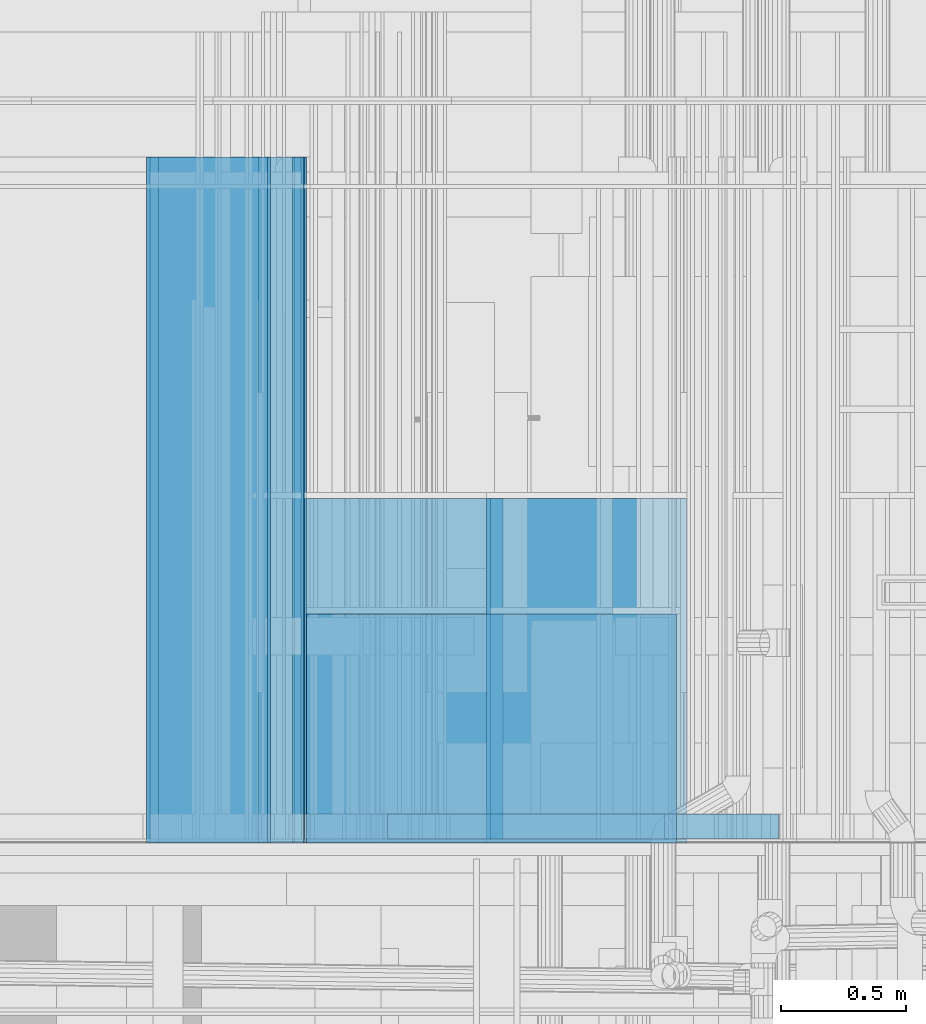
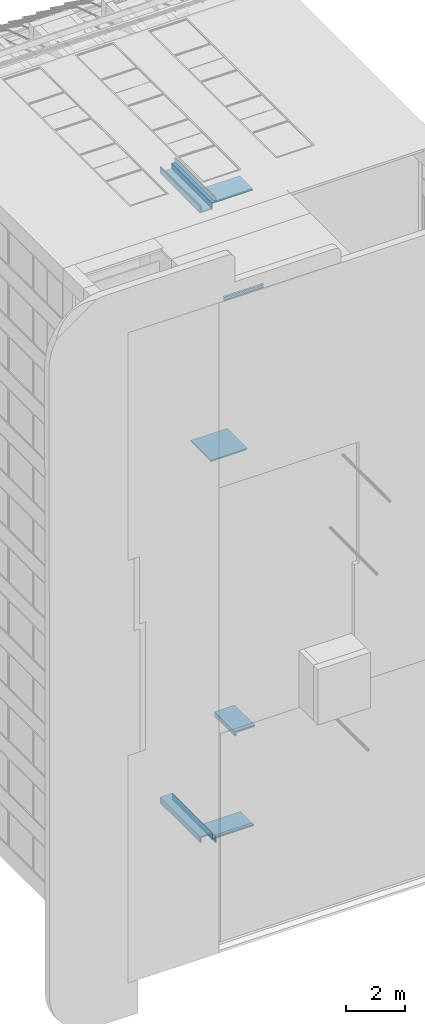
# One storey, part 44 of 583: 34 building element parts, 16 elements without a shape of their own.
"""IFC2X3 building model written with IfcOpenShell, lengths in metres."""

from ifc_helpers import new_model, entity, si_unit, converted_unit, derived_unit, money_unit, direction, frame, frame_2d, origin_with_axes, place, context, subcontext, project, spatial, polyline, rectangle, outline, extrude, material, type_object, element, aggregate, save


model = new_model("IFC2X3")

# Units and contexts
model_context = context("Model", 3, precision=1e-05, world=origin_with_axes(), true_north=direction((0.0, 1.0)))
body_context = subcontext(model_context, "Body", "Model", "MODEL_VIEW", scale=1.0)
ifc_project = project(units=[si_unit("LENGTHUNIT", "METRE"), si_unit("AREAUNIT", "SQUARE_METRE"), si_unit("VOLUMEUNIT", "CUBIC_METRE"), si_unit("ABSORBEDDOSEUNIT", "GRAY"), si_unit("AMOUNTOFSUBSTANCEUNIT", "MOLE"), si_unit("DOSEEQUIVALENTUNIT", "SIEVERT"), si_unit("ELECTRICCAPACITANCEUNIT", "FARAD"), si_unit("ELECTRICCHARGEUNIT", "COULOMB"), si_unit("ELECTRICCONDUCTANCEUNIT", "SIEMENS"), si_unit("ELECTRICCURRENTUNIT", "AMPERE"), si_unit("ELECTRICRESISTANCEUNIT", "OHM"), si_unit("ELECTRICVOLTAGEUNIT", "VOLT"), si_unit("ENERGYUNIT", "JOULE"), si_unit("FORCEUNIT", "NEWTON"), si_unit("FREQUENCYUNIT", "HERTZ"), si_unit("ILLUMINANCEUNIT", "LUX"), si_unit("INDUCTANCEUNIT", "HENRY"), si_unit("LUMINOUSFLUXUNIT", "LUMEN"), si_unit("LUMINOUSINTENSITYUNIT", "CANDELA"), si_unit("MAGNETICFLUXDENSITYUNIT", "TESLA"), si_unit("MAGNETICFLUXUNIT", "WEBER"), si_unit("MASSUNIT", "GRAM"), converted_unit("PLANEANGLEUNIT", "degree", entity("IfcReal", 0.0174532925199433), si_unit("PLANEANGLEUNIT", "RADIAN"), dimensions=[0, 0, 0, 0, 0, 0, 0]), si_unit("POWERUNIT", "WATT"), si_unit("PRESSUREUNIT", "PASCAL"), si_unit("RADIOACTIVITYUNIT", "BECQUEREL"), si_unit("SOLIDANGLEUNIT", "STERADIAN"), si_unit("THERMODYNAMICTEMPERATUREUNIT", "KELVIN"), si_unit("TIMEUNIT", "SECOND"), derived_unit("ACCELERATIONUNIT", [(si_unit("LENGTHUNIT", "METRE"), 1), (si_unit("TIMEUNIT", "SECOND"), -2)]), derived_unit("ANGULARVELOCITYUNIT", [(converted_unit("PLANEANGLEUNIT", "degree", entity("IfcReal", 0.0174532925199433), si_unit("PLANEANGLEUNIT", "RADIAN"), dimensions=[0, 0, 0, 0, 0, 0, 0]), 1), (si_unit("TIMEUNIT", "SECOND"), -1)]), derived_unit("CURVATUREUNIT", [(converted_unit("PLANEANGLEUNIT", "degree", entity("IfcReal", 0.0174532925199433), si_unit("PLANEANGLEUNIT", "RADIAN"), dimensions=[0, 0, 0, 0, 0, 0, 0]), 1), (si_unit("LENGTHUNIT", "METRE"), -1)]), derived_unit("DYNAMICVISCOSITYUNIT", [(si_unit("PRESSUREUNIT", "PASCAL"), 1), (si_unit("TIMEUNIT", "SECOND"), 1)]), derived_unit("HEATFLUXDENSITYUNIT", [(si_unit("POWERUNIT", "WATT"), 1), (si_unit("LENGTHUNIT", "METRE"), -2)]), derived_unit("HEATINGVALUEUNIT", [(si_unit("ENERGYUNIT", "JOULE"), 1), (si_unit("MASSUNIT", "GRAM"), -1)]), derived_unit("INTEGERCOUNTRATEUNIT", [(si_unit("TIMEUNIT", "SECOND"), -1)]), derived_unit("IONCONCENTRATIONUNIT", [(si_unit("MASSUNIT", "GRAM"), 1), (si_unit("VOLUMEUNIT", "CUBIC_METRE"), -1)]), derived_unit("ISOTHERMALMOISTURECAPACITYUNIT", [(si_unit("VOLUMEUNIT", "CUBIC_METRE"), 1), (si_unit("MASSUNIT", "GRAM"), -1)]), derived_unit("KINEMATICVISCOSITYUNIT", [(si_unit("AREAUNIT", "SQUARE_METRE"), 1), (si_unit("TIMEUNIT", "SECOND"), -1)]), derived_unit("LINEARFORCEUNIT", [(si_unit("FORCEUNIT", "NEWTON"), 1), (si_unit("LENGTHUNIT", "METRE"), -1)]), derived_unit("LINEARMOMENTUNIT", [(si_unit("FORCEUNIT", "NEWTON"), 1), (si_unit("LENGTHUNIT", "METRE"), -1)]), derived_unit("LINEARSTIFFNESSUNIT", [(si_unit("FORCEUNIT", "NEWTON"), 1), (si_unit("LENGTHUNIT", "METRE"), -1)]), derived_unit("LINEARVELOCITYUNIT", [(si_unit("LENGTHUNIT", "METRE"), 1), (si_unit("TIMEUNIT", "SECOND"), -1)]), derived_unit("LUMINOUSINTENSITYDISTRIBUTIONUNIT", [(si_unit("LUMINOUSINTENSITYUNIT", "CANDELA"), 1), (si_unit("LUMINOUSFLUXUNIT", "LUMEN"), -1)]), derived_unit("MASSDENSITYUNIT", [(si_unit("MASSUNIT", "GRAM"), 1), (si_unit("VOLUMEUNIT", "CUBIC_METRE"), -1)]), derived_unit("MASSFLOWRATEUNIT", [(si_unit("MASSUNIT", "GRAM"), 1), (si_unit("TIMEUNIT", "SECOND"), -1)]), derived_unit("MASSPERLENGTHUNIT", [(si_unit("MASSUNIT", "GRAM"), 1), (si_unit("LENGTHUNIT", "METRE"), -1)]), derived_unit("MODULUSOFELASTICITYUNIT", [(si_unit("FORCEUNIT", "NEWTON"), 1), (si_unit("AREAUNIT", "SQUARE_METRE"), -1)]), derived_unit("MODULUSOFLINEARSUBGRADEREACTIONUNIT", [(si_unit("FORCEUNIT", "NEWTON"), 1), (si_unit("LENGTHUNIT", "METRE"), -2)]), derived_unit("MODULUSOFROTATIONALSUBGRADEREACTIONUNIT", [(si_unit("FORCEUNIT", "NEWTON"), 1), (si_unit("LENGTHUNIT", "METRE"), 1)]), derived_unit("MODULUSOFSUBGRADEREACTIONUNIT", [(si_unit("FORCEUNIT", "NEWTON"), 1), (si_unit("VOLUMEUNIT", "CUBIC_METRE"), -1)]), derived_unit("MOISTUREDIFFUSIVITYUNIT", [(si_unit("VOLUMEUNIT", "CUBIC_METRE"), 1), (si_unit("TIMEUNIT", "SECOND"), -1)]), derived_unit("MOLECULARWEIGHTUNIT", [(si_unit("MASSUNIT", "GRAM"), 1), (si_unit("AMOUNTOFSUBSTANCEUNIT", "MOLE"), -1)]), derived_unit("PLANARFORCEUNIT", [(si_unit("FORCEUNIT", "NEWTON"), 1), (si_unit("LENGTHUNIT", "METRE"), -2)]), derived_unit("ROTATIONALFREQUENCYUNIT", [(si_unit("TIMEUNIT", "SECOND"), -1)]), derived_unit("ROTATIONALMASSUNIT", [(si_unit("MASSUNIT", "GRAM"), 1), (si_unit("LENGTHUNIT", "METRE"), 2)]), derived_unit("ROTATIONALSTIFFNESSUNIT", [(si_unit("FORCEUNIT", "NEWTON"), 1), (si_unit("LENGTHUNIT", "METRE"), 1), (converted_unit("PLANEANGLEUNIT", "degree", entity("IfcReal", 0.0174532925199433), si_unit("PLANEANGLEUNIT", "RADIAN"), dimensions=[0, 0, 0, 0, 0, 0, 0]), -1)]), derived_unit("SECTIONAREAINTEGRALUNIT", [(si_unit("LENGTHUNIT", "METRE"), 5)]), derived_unit("SECTIONMODULUSUNIT", [(si_unit("LENGTHUNIT", "METRE"), 3)]), derived_unit("SHEARMODULUSUNIT", [(si_unit("FORCEUNIT", "NEWTON"), 1), (si_unit("AREAUNIT", "SQUARE_METRE"), -1)]), derived_unit("SOUNDPOWERUNIT", [(si_unit("ENERGYUNIT", "JOULE"), 1), (si_unit("TIMEUNIT", "SECOND"), -1)]), derived_unit("SPECIFICHEATCAPACITYUNIT", [(si_unit("FORCEUNIT", "NEWTON"), 1), (si_unit("MASSUNIT", "GRAM"), -1), (si_unit("THERMODYNAMICTEMPERATUREUNIT", "KELVIN"), -1)]), derived_unit("TEMPERATUREGRADIENTUNIT", [(si_unit("THERMODYNAMICTEMPERATUREUNIT", "KELVIN"), 1), (si_unit("LENGTHUNIT", "METRE"), -1)]), derived_unit("THERMALADMITTANCEUNIT", [(si_unit("POWERUNIT", "WATT"), 1), (si_unit("AREAUNIT", "SQUARE_METRE"), -1), (si_unit("THERMODYNAMICTEMPERATUREUNIT", "KELVIN"), -1)]), derived_unit("THERMALCONDUCTANCEUNIT", [(si_unit("POWERUNIT", "WATT"), 1), (si_unit("LENGTHUNIT", "METRE"), -1), (si_unit("THERMODYNAMICTEMPERATUREUNIT", "KELVIN"), -1)]), derived_unit("THERMALEXPANSIONCOEFFICIENTUNIT", [(si_unit("THERMODYNAMICTEMPERATUREUNIT", "KELVIN"), -1)]), derived_unit("THERMALRESISTANCEUNIT", [(si_unit("AREAUNIT", "SQUARE_METRE"), 1), (si_unit("POWERUNIT", "WATT"), -1)]), derived_unit("THERMALTRANSMITTANCEUNIT", [(si_unit("POWERUNIT", "WATT"), 1), (si_unit("AREAUNIT", "SQUARE_METRE"), -1), (si_unit("THERMODYNAMICTEMPERATUREUNIT", "KELVIN"), -1)]), derived_unit("TORQUEUNIT", [(si_unit("FORCEUNIT", "NEWTON"), 1), (si_unit("LENGTHUNIT", "METRE"), 1)]), derived_unit("VAPORPERMEABILITYUNIT", [(si_unit("MASSUNIT", "GRAM"), 1), (si_unit("TIMEUNIT", "SECOND"), -1)]), derived_unit("VOLUMETRICFLOWRATEUNIT", [(si_unit("VOLUMEUNIT", "CUBIC_METRE"), 1), (si_unit("TIMEUNIT", "SECOND"), -1)]), derived_unit("WARPINGCONSTANTUNIT", [(si_unit("LENGTHUNIT", "METRE"), 6)]), derived_unit("WARPINGMOMENTUNIT", [(si_unit("FORCEUNIT", "NEWTON"), 1), (si_unit("LENGTHUNIT", "METRE"), 2)]), money_unit("GBP")], contexts=[model_context])

# Site, building, storey
site_placement = place(None, origin_with_axes())
site = spatial("IfcSite", under=ifc_project, at=site_placement, Name="Site", CompositionType="ELEMENT")
building_placement = place(site_placement, origin_with_axes())
building = spatial("IfcBuilding", under=site, at=building_placement, Name="Building01", CompositionType="ELEMENT")
storey_placement = place(building_placement, frame((0.0, 0.0, 20.78), z_axis=(0.0, 0.0, 1.0), x_axis=(1.0, 0.0, 0.0)))
storey = spatial("IfcBuildingStorey", under=building, at=storey_placement, Name="RL", CompositionType="ELEMENT", Elevation=20.78)

# Wall, building element parts
wall_type_1 = type_object("IfcWallType", Name="SHE_A-Walls_Type05c_PreWallShell_65mm", PredefinedType="NOTDEFINED")
wall_1_placement = place(storey_placement, frame((6.59, 5.15, -4.815), z_axis=(0.0, 1.0, 0.0), x_axis=(1.0, 0.0, 0.0)))
wall_1 = element("IfcWall", 1, at=wall_1_placement, inside=storey, type_object=wall_type_1, Name="5C", ObjectType="SHE_A-Walls_Type05c_PreWallShell_65mm")
ifc_material_1 = material(Name="A_BSUK_OpeningsClearance")
placement_1 = place(wall_1_placement, origin_with_axes())
building_element_part_1 = element("IfcBuildingElementPart", 2, at=placement_1, material=ifc_material_1, Name="1", context=body_context, shape_type="SweptSolid", body=[
    extrude(rectangle(XDim=1.378, YDim=0.05, at=frame_2d((0.586, -0.025), x_axis=(-1.0, 0.0))), origin_with_axes(), (0.0, 0.0, 1.0), 1.375),
])
ifc_material_2 = material(Name="A_BSUK_Walls_Timber")
building_element_part_2 = element("IfcBuildingElementPart", 3, at=placement_1, material=ifc_material_2, Name="2", context=body_context, shape_type="SweptSolid", body=[
    extrude(rectangle(XDim=1.44, YDim=0.015, at=frame_2d((0.605, -0.0575), x_axis=(-1.0, 0.0))), origin_with_axes(), (0.0, 0.0, 1.0), 1.375),
])
aggregate(wall_1, [building_element_part_1, building_element_part_2])

wall_type_2 = type_object("IfcWallType", Name="SHE_A-Walls_Type05a_Partition_95mm_tall", PredefinedType="NOTDEFINED")
wall_2_placement = place(storey_placement, frame((6.965, 5.15, 1.756661), z_axis=(0.0, 1.0, 0.0), x_axis=(1.0, 0.0, 0.0)))
wall_2 = element("IfcWall", 4, at=wall_2_placement, inside=storey, type_object=wall_type_2, Name="5A", ObjectType="SHE_A-Walls_Type05a_Partition_95mm_tall")
placement_2 = place(wall_2_placement, origin_with_axes())
building_element_part_3 = element("IfcBuildingElementPart", 5, at=placement_2, material=ifc_material_2, Name="2", context=body_context, shape_type="SweptSolid", body=[
    extrude(rectangle(XDim=1.565, YDim=0.015, at=frame_2d((0.8325, 0.0675), x_axis=(-1.0, 0.0))), frame((0.0, 0.0, 0.015), z_axis=(0.0, 0.0, 1.0), x_axis=(1.0, 0.0, 0.0)), (0.0, 0.0, 1.0), 0.1),
])
building_element_part_4 = element("IfcBuildingElementPart", 6, at=placement_2, material=ifc_material_2, Name="3", context=body_context, shape_type="SweptSolid", body=[
    extrude(rectangle(XDim=1.565, YDim=0.015, at=frame_2d((0.8325, -0.0425), x_axis=(-1.0, 0.0))), frame((0.0, 0.0, 0.015), z_axis=(0.0, 0.0, 1.0), x_axis=(1.0, 0.0, 0.0)), (0.0, 0.0, 1.0), 0.1),
])
aggregate(wall_2, [building_element_part_3, building_element_part_4])

wall_3_placement = place(storey_placement, frame((8.21067, 5.15, -16.40427), z_axis=(0.0, 1.0, 0.0), x_axis=(-1.0, 0.0, 0.0)))
wall_3 = element("IfcWall", 7, at=wall_3_placement, inside=storey, type_object=wall_type_1, Name="5C", ObjectType="SHE_A-Walls_Type05c_PreWallShell_65mm")
placement_3 = place(wall_3_placement, origin_with_axes())
building_element_part_5 = element("IfcBuildingElementPart", 8, at=placement_3, material=ifc_material_1, Name="1", context=body_context, shape_type="SweptSolid", body=[
    extrude(rectangle(XDim=0.735, YDim=0.05, at=frame_2d((0.3675, 0.025), x_axis=(-1.0, 0.0))), origin_with_axes(), (0.0, 0.0, 1.0), 1.375),
])
building_element_part_6 = element("IfcBuildingElementPart", 9, at=placement_3, material=ifc_material_2, Name="2", context=body_context, shape_type="SweptSolid", body=[
    extrude(rectangle(XDim=0.8, YDim=0.015, at=frame_2d((0.4, 0.0575), x_axis=(-1.0, 0.0))), origin_with_axes(), (0.0, 0.0, 1.0), 1.375),
])
aggregate(wall_3, [building_element_part_5, building_element_part_6])

wall_4_placement = place(storey_placement, frame((7.47567, 5.15, -16.35427), z_axis=(0.0, 1.0, 0.0), x_axis=(0.0, 0.0, -1.0)))
wall_4 = element("IfcWall", 10, at=wall_4_placement, inside=storey, type_object=wall_type_1, Name="5C", ObjectType="SHE_A-Walls_Type05c_PreWallShell_65mm")
placement_4 = place(wall_4_placement, origin_with_axes())
building_element_part_7 = element("IfcBuildingElementPart", 11, at=placement_4, material=ifc_material_1, Name="1", context=body_context, shape_type="SweptSolid", body=[
    extrude(rectangle(XDim=0.185, YDim=0.05, at=frame_2d((0.0925, 0.025), x_axis=(-1.0, 0.0))), origin_with_axes(), (0.0, 0.0, 1.0), 1.375),
])
building_element_part_8 = element("IfcBuildingElementPart", 12, at=placement_4, material=ifc_material_2, Name="2", context=body_context, shape_type="SweptSolid", body=[
    extrude(rectangle(XDim=0.185, YDim=0.015, at=frame_2d((0.0925, 0.0575), x_axis=(-1.0, 0.0))), origin_with_axes(), (0.0, 0.0, 1.0), 1.375),
])
aggregate(wall_4, [building_element_part_7, building_element_part_8])

wall_type_3 = type_object("IfcWallType", Name="SHE_A-Walls_Type06d_ExternalWallInsulation_48mm", PredefinedType="NOTDEFINED")
wall_5_placement = place(storey_placement, frame((6.1, 5.15, 5.93), z_axis=(0.0, 1.0, 0.0), x_axis=(0.0, 0.0, -1.0)))
wall_5 = element("IfcWall", 13, at=wall_5_placement, inside=storey, type_object=wall_type_3, Name="6D", ObjectType="SHE_A-Walls_Type06d_ExternalWallInsulation_48mm")
ifc_material_3 = material(Name="A_BSUK_Insulation")
placement_5 = place(wall_5_placement, origin_with_axes())
building_element_part_9 = element("IfcBuildingElementPart", 14, at=placement_5, material=ifc_material_3, Name="1", context=body_context, shape_type="SweptSolid", body=[
    extrude(rectangle(XDim=0.23, YDim=0.036, at=frame_2d((0.115, 0.018), x_axis=(-1.0, 0.0))), origin_with_axes(), (0.0, 0.0, 1.0), 2.74),
])
ifc_material_4 = material(Name="A_BSUK_WallInternal_Finishes_Plasterboard")
building_element_part_10 = element("IfcBuildingElementPart", 15, at=placement_5, material=ifc_material_4, Name="3", context=body_context, shape_type="SweptSolid", body=[
    extrude(rectangle(XDim=0.23, YDim=0.013, at=frame_2d((0.15, 0.0415), x_axis=(-1.0, 0.0))), origin_with_axes(), (0.0, 0.0, 1.0), 2.74),
])
aggregate(wall_5, [building_element_part_9, building_element_part_10])

wall_6_placement = place(storey_placement, frame((6.064, 5.15, 5.7), z_axis=(0.0, 1.0, 0.0), x_axis=(1.0, 0.0, 0.0)))
wall_6 = element("IfcWall", 16, at=wall_6_placement, inside=storey, type_object=wall_type_3, Name="6D", ObjectType="SHE_A-Walls_Type06d_ExternalWallInsulation_48mm")
placement_6 = place(wall_6_placement, origin_with_axes())
building_element_part_11 = element("IfcBuildingElementPart", 17, at=placement_6, material=ifc_material_3, Name="1", context=body_context, shape_type="SweptSolid", body=[
    extrude(rectangle(XDim=0.472, YDim=0.036, at=frame_2d((0.236, 0.018), x_axis=(-1.0, 0.0))), origin_with_axes(), (0.0, 0.0, 1.0), 2.74),
])
building_element_part_12 = element("IfcBuildingElementPart", 18, at=placement_6, material=ifc_material_4, Name="3", context=body_context, shape_type="SweptSolid", body=[
    extrude(rectangle(XDim=0.496, YDim=0.013, at=frame_2d((0.236, 0.0415), x_axis=(-1.0, 0.0))), origin_with_axes(), (0.0, 0.0, 1.0), 2.74),
])
aggregate(wall_6, [building_element_part_11, building_element_part_12])

wall_7_placement = place(storey_placement, frame((6.5, 5.15, 5.7), z_axis=(0.0, 1.0, 0.0), x_axis=(0.0, 0.0, 1.0)))
wall_7 = element("IfcWall", 19, at=wall_7_placement, inside=storey, type_object=wall_type_3, Name="6D", ObjectType="SHE_A-Walls_Type06d_ExternalWallInsulation_48mm")
placement_7 = place(wall_7_placement, origin_with_axes())
building_element_part_13 = element("IfcBuildingElementPart", 20, at=placement_7, material=ifc_material_3, Name="1", context=body_context, shape_type="SweptSolid", body=[
    extrude(rectangle(XDim=0.194, YDim=0.036, at=frame_2d((0.097, 0.018), x_axis=(-1.0, 0.0))), origin_with_axes(), (0.0, 0.0, 1.0), 2.74),
])
building_element_part_14 = element("IfcBuildingElementPart", 21, at=placement_7, material=ifc_material_4, Name="3", context=body_context, shape_type="SweptSolid", body=[
    extrude(rectangle(XDim=0.217, YDim=0.013, at=frame_2d((0.0735, 0.0415), x_axis=(-1.0, 0.0))), origin_with_axes(), (0.0, 0.0, 1.0), 2.74),
])
aggregate(wall_7, [building_element_part_13, building_element_part_14])

wall_8_placement = place(storey_placement, frame((6.5, 5.15, 5.93), z_axis=(0.0, 1.0, 0.0), x_axis=(1.0, 0.0, 0.0)))
wall_8 = element("IfcWall", 22, at=wall_8_placement, inside=storey, type_object=wall_type_3, Name="6D", ObjectType="SHE_A-Walls_Type06d_ExternalWallInsulation_48mm")
placement_8 = place(wall_8_placement, origin_with_axes())
building_element_part_15 = element("IfcBuildingElementPart", 23, at=placement_8, material=ifc_material_3, Name="1", context=body_context, shape_type="SweptSolid", body=[
    extrude(rectangle(XDim=0.134304, YDim=0.036, at=frame_2d((0.067152, 0.018), x_axis=(-1.0, 0.0))), origin_with_axes(), (0.0, 0.0, 1.0), 2.74),
])
building_element_part_16 = element("IfcBuildingElementPart", 24, at=placement_8, material=ifc_material_4, Name="3", context=body_context, shape_type="SweptSolid", body=[
    extrude(rectangle(XDim=0.147304, YDim=0.013, at=frame_2d((0.108652, 0.0415), x_axis=(-1.0, 0.0))), origin_with_axes(), (0.0, 0.0, 1.0), 2.74),
])
aggregate(wall_8, [building_element_part_15, building_element_part_16])

wall_9_placement = place(storey_placement, frame((6.634304, 5.15, 5.894), z_axis=(0.0, 1.0, 0.0), x_axis=(0.0, 0.0, 1.0)))
wall_9 = element("IfcWall", 25, at=wall_9_placement, inside=storey, type_object=wall_type_3, Name="6D", ObjectType="SHE_A-Walls_Type06d_ExternalWallInsulation_48mm")
placement_9 = place(wall_9_placement, origin_with_axes())
building_element_part_17 = element("IfcBuildingElementPart", 26, at=placement_9, material=ifc_material_3, Name="1", context=body_context, shape_type="SweptSolid", body=[
    extrude(rectangle(XDim=0.036, YDim=0.206, at=frame_2d((0.103, 0.018), x_axis=(0.0, -1.0))), origin_with_axes(), (0.0, 0.0, 1.0), 2.74),
])
building_element_part_18 = element("IfcBuildingElementPart", 27, at=placement_9, material=ifc_material_4, Name="3", context=body_context, shape_type="SweptSolid", body=[
    extrude(rectangle(XDim=0.013, YDim=0.205, at=frame_2d((0.1035, 0.0415), x_axis=(0.0, -1.0))), origin_with_axes(), (0.0, 0.0, 1.0), 2.74),
])
aggregate(wall_9, [building_element_part_17, building_element_part_18])

wall_10_placement = place(storey_placement, frame((8.137304, 5.15, 5.894), z_axis=(0.0, 1.0, 0.0), x_axis=(-1.0, 0.0, 0.0)))
wall_10 = element("IfcWall", 28, at=wall_10_placement, inside=storey, type_object=wall_type_3, Name="6D", ObjectType="SHE_A-Walls_Type06d_ExternalWallInsulation_48mm")
placement_10 = place(wall_10_placement, origin_with_axes())
building_element_part_19 = element("IfcBuildingElementPart", 29, at=placement_10, material=ifc_material_3, Name="1", context=body_context, shape_type="SweptSolid", body=[
    extrude(rectangle(XDim=1.455, YDim=0.036, at=frame_2d((0.7275, 0.018), x_axis=(-1.0, 0.0))), origin_with_axes(), (0.0, 0.0, 1.0), 0.915),
])
building_element_part_20 = element("IfcBuildingElementPart", 30, at=placement_10, material=ifc_material_2, Name="2", context=body_context, shape_type="SweptSolid", body=[
    extrude(rectangle(XDim=1.440022, YDim=0.015, at=frame_2d((0.734989, -0.0195), x_axis=(-1.0, 0.0))), frame((0.0, 0.0, 0.015), z_axis=(0.0, 0.0, 1.0), x_axis=(1.0, 0.0, 0.0)), (0.0, 0.0, 1.0), 0.1),
])
building_element_part_21 = element("IfcBuildingElementPart", 31, at=placement_10, material=ifc_material_4, Name="3", context=body_context, shape_type="SweptSolid", body=[
    extrude(rectangle(XDim=1.455, YDim=0.013, at=frame_2d((0.7275, -0.0055), x_axis=(-1.0, 0.0))), origin_with_axes(), (0.0, 0.0, 1.0), 0.915),
])
aggregate(wall_10, [building_element_part_19, building_element_part_20, building_element_part_21])

wall_11_placement = place(storey_placement, frame((8.17, 5.15, -20.474), z_axis=(0.0, 1.0, 0.0), x_axis=(-1.0, 0.0, 0.0)))
wall_11 = element("IfcWall", 32, at=wall_11_placement, inside=storey, type_object=wall_type_3, Name="6D", ObjectType="SHE_A-Walls_Type06d_ExternalWallInsulation_48mm")
placement_11 = place(wall_11_placement, origin_with_axes())
building_element_part_22 = element("IfcBuildingElementPart", 33, at=placement_11, material=ifc_material_3, Name="1", context=body_context, shape_type="SweptSolid", body=[
    extrude(rectangle(XDim=1.47782, YDim=0.036, at=frame_2d((0.73891, -0.018), x_axis=(-1.0, 0.0))), origin_with_axes(), (0.0, 0.0, 1.0), 0.915),
])
building_element_part_23 = element("IfcBuildingElementPart", 34, at=placement_11, material=ifc_material_2, Name="2", context=body_context, shape_type="SweptSolid", body=[
    extrude(rectangle(XDim=1.46282, YDim=0.015, at=frame_2d((0.73141, 0.0195), x_axis=(-1.0, 0.0))), frame((0.0, 0.0, 0.015), z_axis=(0.0, 0.0, 1.0), x_axis=(1.0, 0.0, 0.0)), (0.0, 0.0, 1.0), 0.1),
])
building_element_part_24 = element("IfcBuildingElementPart", 35, at=placement_11, material=ifc_material_4, Name="3", context=body_context, shape_type="SweptSolid", body=[
    extrude(rectangle(XDim=1.47782, YDim=0.013, at=frame_2d((0.73891, 0.0055), x_axis=(-1.0, 0.0))), origin_with_axes(), (0.0, 0.0, 1.0), 0.915),
])
aggregate(wall_11, [building_element_part_22, building_element_part_23, building_element_part_24])

wall_12_placement = place(storey_placement, frame((6.68018, 5.15, -20.51), z_axis=(0.0, 1.0, 0.0), x_axis=(-1.0, 0.0, 0.0)))
wall_12 = element("IfcWall", 36, at=wall_12_placement, inside=storey, type_object=wall_type_3, Name="6D", ObjectType="SHE_A-Walls_Type06d_ExternalWallInsulation_48mm")
placement_12 = place(wall_12_placement, origin_with_axes())
building_element_part_25 = element("IfcBuildingElementPart", 37, at=placement_12, material=ifc_material_3, Name="1", context=body_context, shape_type="SweptSolid", body=[
    extrude(rectangle(XDim=0.14418, YDim=0.036, at=frame_2d((0.07209, 0.018), x_axis=(-1.0, 0.0))), origin_with_axes(), (0.0, 0.0, 1.0), 2.74),
])
building_element_part_26 = element("IfcBuildingElementPart", 38, at=placement_12, material=ifc_material_4, Name="3", context=body_context, shape_type="SweptSolid", body=[
    extrude(outline(polyline([(0.13218, 0.048), (-0.012, 0.048), (0.001, 0.035), (0.13218, 0.035), (0.13218, 0.048)])), origin_with_axes(), (0.0, 0.0, 1.0), 2.74),
])
aggregate(wall_12, [building_element_part_25, building_element_part_26])

wall_13_placement = place(storey_placement, frame((6.64418, 5.15, -20.51), z_axis=(0.0, 1.0, 0.0), x_axis=(0.0, 0.0, -1.0)))
wall_13 = element("IfcWall", 39, at=wall_13_placement, inside=storey, type_object=wall_type_3, Name="6D", ObjectType="SHE_A-Walls_Type06d_ExternalWallInsulation_48mm")
placement_13 = place(wall_13_placement, origin_with_axes())
building_element_part_27 = element("IfcBuildingElementPart", 40, at=placement_13, material=ifc_material_3, Name="1", context=body_context, shape_type="SweptSolid", body=[
    extrude(rectangle(XDim=0.036, YDim=0.17, at=frame_2d((0.085, -0.018), x_axis=(0.0, -1.0))), origin_with_axes(), (0.0, 0.0, 1.0), 2.74),
])
building_element_part_28 = element("IfcBuildingElementPart", 41, at=placement_13, material=ifc_material_4, Name="3", context=body_context, shape_type="SweptSolid", body=[
    extrude(outline(polyline([(-0.035, -0.035), (-0.048, -0.048), (0.17, -0.048), (0.17, -0.035), (-0.035, -0.035)])), origin_with_axes(), (0.0, 0.0, 1.0), 2.74),
])
aggregate(wall_13, [building_element_part_27, building_element_part_28])

wall_14_placement = place(storey_placement, frame((6.5, 5.15, -20.51), z_axis=(0.0, 1.0, 0.0), x_axis=(0.0, 0.0, 1.0)))
wall_14 = element("IfcWall", 42, at=wall_14_placement, inside=storey, type_object=wall_type_3, Name="6D", ObjectType="SHE_A-Walls_Type06d_ExternalWallInsulation_48mm")
placement_14 = place(wall_14_placement, origin_with_axes())
building_element_part_29 = element("IfcBuildingElementPart", 43, at=placement_14, material=ifc_material_3, Name="1", context=body_context, shape_type="SweptSolid", body=[
    extrude(rectangle(XDim=0.23, YDim=0.036, at=frame_2d((0.115, 0.018), x_axis=(-1.0, 0.0))), origin_with_axes(), (0.0, 0.0, 1.0), 2.74),
])
building_element_part_30 = element("IfcBuildingElementPart", 44, at=placement_14, material=ifc_material_4, Name="3", context=body_context, shape_type="SweptSolid", body=[
    extrude(outline(polyline([(0.278, 0.048), (0.035, 0.048), (0.035, 0.035), (0.265, 0.035), (0.278, 0.048)])), origin_with_axes(), (0.0, 0.0, 1.0), 2.74),
])
aggregate(wall_14, [building_element_part_29, building_element_part_30])

wall_15_placement = place(storey_placement, frame((6.536, 5.15, -20.28), z_axis=(0.0, 1.0, 0.0), x_axis=(-1.0, 0.0, 0.0)))
wall_15 = element("IfcWall", 45, at=wall_15_placement, inside=storey, type_object=wall_type_3, Name="6D", ObjectType="SHE_A-Walls_Type06d_ExternalWallInsulation_48mm")
placement_15 = place(wall_15_placement, origin_with_axes())
building_element_part_31 = element("IfcBuildingElementPart", 46, at=placement_15, material=ifc_material_3, Name="1", context=body_context, shape_type="SweptSolid", body=[
    extrude(rectangle(XDim=0.472, YDim=0.036, at=frame_2d((0.236, 0.018), x_axis=(-1.0, 0.0))), origin_with_axes(), (0.0, 0.0, 1.0), 2.74),
])
building_element_part_32 = element("IfcBuildingElementPart", 47, at=placement_15, material=ifc_material_4, Name="3", context=body_context, shape_type="SweptSolid", body=[
    extrude(outline(polyline([(0.484, 0.048), (-0.012, 0.048), (0.001, 0.035), (0.471, 0.035), (0.484, 0.048)])), origin_with_axes(), (0.0, 0.0, 1.0), 2.74),
])
aggregate(wall_15, [building_element_part_31, building_element_part_32])

wall_16_placement = place(storey_placement, frame((6.1, 5.15, -20.28), z_axis=(0.0, 1.0, 0.0), x_axis=(0.0, 0.0, -1.0)))
wall_16 = element("IfcWall", 48, at=wall_16_placement, inside=storey, type_object=wall_type_3, Name="6D", ObjectType="SHE_A-Walls_Type06d_ExternalWallInsulation_48mm")
placement_16 = place(wall_16_placement, origin_with_axes())
building_element_part_33 = element("IfcBuildingElementPart", 49, at=placement_16, material=ifc_material_3, Name="1", context=body_context, shape_type="SweptSolid", body=[
    extrude(rectangle(XDim=0.194, YDim=0.036, at=frame_2d((0.097, 0.018), x_axis=(-1.0, 0.0))), origin_with_axes(), (0.0, 0.0, 1.0), 2.74),
])
building_element_part_34 = element("IfcBuildingElementPart", 50, at=placement_16, material=ifc_material_4, Name="3", context=body_context, shape_type="SweptSolid", body=[
    extrude(outline(polyline([(0.195, 0.048), (-0.048, 0.048), (-0.035, 0.035), (0.195, 0.035), (0.195, 0.048)])), origin_with_axes(), (0.0, 0.0, 1.0), 2.74),
])
aggregate(wall_16, [building_element_part_33, building_element_part_34])

save(model, "model.ifc")
